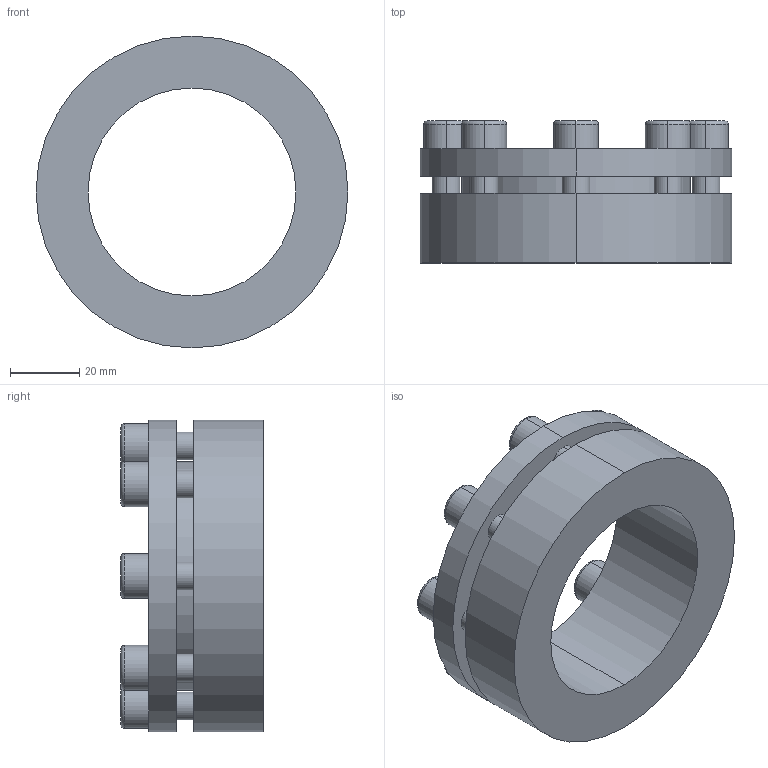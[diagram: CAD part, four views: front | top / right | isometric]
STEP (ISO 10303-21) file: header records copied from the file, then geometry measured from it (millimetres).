
FILE_DESCRIPTION (( 'STEP AP203' ), '1' );
FILE_NAME ('PL-H3 60-90.STEP', '2021-10-23T01:08:34', ( '' ), ( '' ), 'SwSTEP 2.0', 'SolidWorks 2018', '' );
FILE_SCHEMA (( 'CONFIG_CONTROL_DESIGN' ));
Length unit declared in the file: millimetre
Products named in the file (1): PL-H3 60-90
Bounding box: 90 x 41 x 90 mm (x, y, z)
Volume: 111369.1 mm3; surface area: 31459.7 mm2
Topology: 1 solids, 1 shells, 124 faces, 296 edges, 192 vertices
Faces by surface type: plane 68, cylinder 40, torus 16
Entity records: 3717 total; most frequent: DIRECTION 658, CARTESIAN_POINT 613, ORIENTED_EDGE 592, EDGE_CURVE 296, AXIS2_PLACEMENT_3D 237, VERTEX_POINT 192, VECTOR 184, LINE 184
